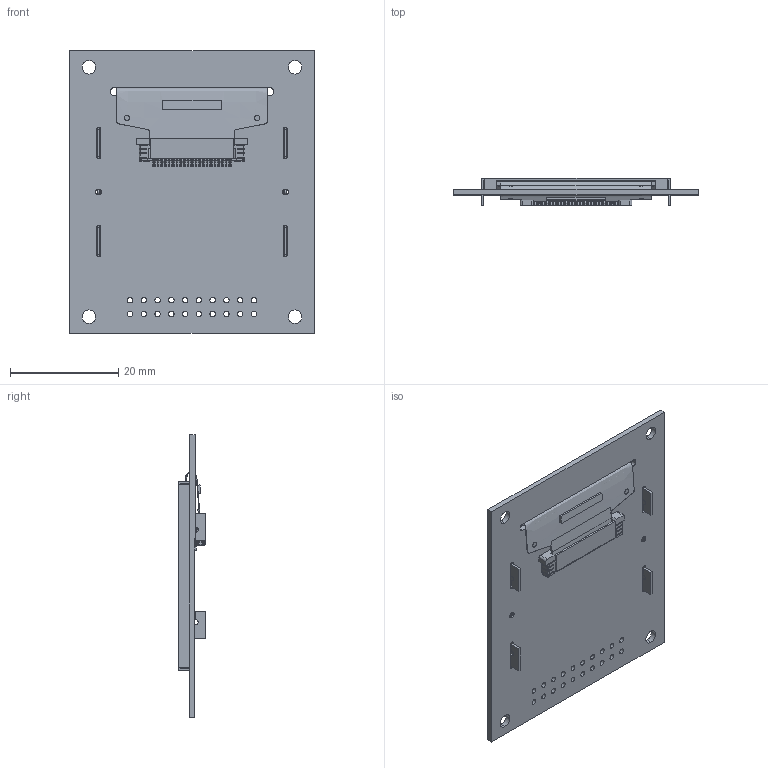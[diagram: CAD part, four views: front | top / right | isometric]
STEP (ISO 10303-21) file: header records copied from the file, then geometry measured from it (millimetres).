
FILE_DESCRIPTION (( 'STEP AP203' ), '1' );
FILE_NAME ('NHD-1.5-128128UGC3.STEP', '2020-04-24T21:36:02', ( '' ), ( '' ), 'SwSTEP 2.0', 'SolidWorks 2017', '' );
FILE_SCHEMA (( 'CONFIG_CONTROL_DESIGN' ));
Length unit declared in the file: millimetre
Products named in the file (5): PRT0001; PRT0002; PRT0003; OLED; NHD-1.5-128128UGC3
Assembly tree (4 placements, depth 2):
  NHD-1.5-128128UGC3
    PRT0001
    PRT0002
    PRT0003
    OLED
Bounding box: 45 x 5.15 x 52 mm (x, y, z)
Volume: 4468.4 mm3; surface area: 10498.6 mm2
Topology: 6 solids, 6 shells, 3400 faces, 11070 edges, 7292 vertices
Faces by surface type: plane 2131, cylinder 1238, bspline 31
Entity records: 128164 total; most frequent: CARTESIAN_POINT 36518, ORIENTED_EDGE 22140, DIRECTION 14738, EDGE_CURVE 11070, VERTEX_POINT 7292, LINE 7262, VECTOR 7262, AXIS2_PLACEMENT_3D 3738
